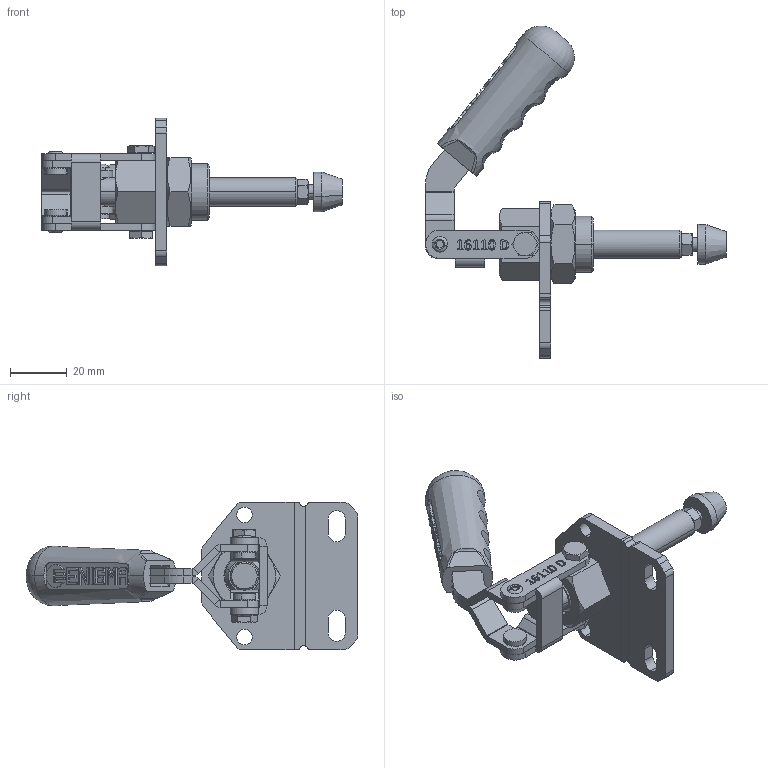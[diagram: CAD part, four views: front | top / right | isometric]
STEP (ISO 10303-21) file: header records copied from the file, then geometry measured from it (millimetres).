
FILE_DESCRIPTION (( 'STEP AP203' ), '1' );
FILE_NAME ('16110_D.STEP', '2022-11-28T06:00:21', ( '' ), ( '' ), 'SwSTEP 2.0', 'SolidWorks 2023', '' );
FILE_SCHEMA (( 'CONFIG_CONTROL_DESIGN' ));
Length unit declared in the file: millimetre
Products named in the file (15): 1607_Mil_Varsayılan; C55_T(YENİ_TUTAMAK)_Varsayılan; 16110_D; KASTAS-K52-10X16_2X4_5-6_Varsayılan; 1602_S4_Flans_Varsayılan; 1602_TozKeçeliAltıgenGovde_Varsayılan; Aynalama1602_Hareket Kolu_Varsayılan; M5 Baskı_Varsayılan; M20x1_5x8 Somun_Varsayılan; M4x5x10_Varsayılan; Pim_5x20_Varsayılan; M5 Somun_Varsayılan; 1602_Hareket Kolu_Varsayılan; 1601_Pim_4x7_5_Varsayılan; 1602_Mafsal_Varsayılan
Assembly tree (17 placements, depth 2):
  16110_D
    1602_TozKeçeliAltıgenGovde_Varsayılan
    KASTAS-K52-10X16_2X4_5-6_Varsayılan  x2
    1607_Mil_Varsayılan
    1602_Hareket Kolu_Varsayılan
    1602_Mafsal_Varsayılan
    Aynalama1602_Hareket Kolu_Varsayılan
    Pim_5x20_Varsayılan
    1602_S4_Flans_Varsayılan
    M20x1_5x8 Somun_Varsayılan
    M5 Baskı_Varsayılan
    M5 Somun_Varsayılan
    M4x5x10_Varsayılan  x2
    1601_Pim_4x7_5_Varsayılan  x2
    C55_T(YENİ_TUTAMAK)_Varsayılan
Bounding box: 105.9 x 116.86 x 52 mm (x, y, z)
Volume: 48449.3 mm3; surface area: 33332 mm2
Topology: 17 solids, 17 shells, 926 faces, 2283 edges, 1435 vertices
Faces by surface type: plane 467, cylinder 204, bspline 123, cone 104, torus 28
Entity records: 34939 total; most frequent: CARTESIAN_POINT 14447, ORIENTED_EDGE 4058, DIRECTION 3600, EDGE_CURVE 2029, VERTEX_POINT 1282, LINE 1222, VECTOR 1222, AXIS2_PLACEMENT_3D 1189
